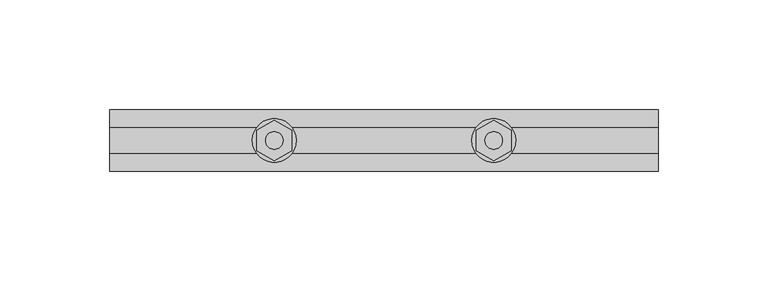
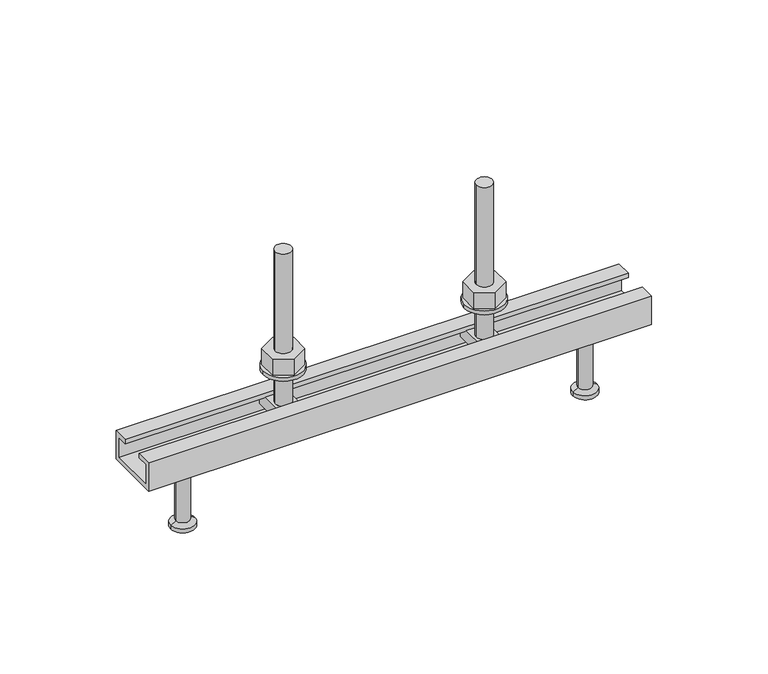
"""IFC4 building model written with IfcOpenShell, lengths in millimetres: fastener geometry, JTA-K JORDAHL® AnchorChannels : JTA-K L=250 mm."""

from ifc_helpers import new_model, si_unit, point, frame, frame_2d, origin, place, context, project, spatial, polyline, circle_curve, trimmed, segment, composite_curve, outline, extrude, source, transform, mapped, element, save
from ifc_brep_helpers import plane_surface, cylinder_surface, revolved_surface, advanced_brep


def fastener_d3574054(model_context):
    return source(origin(), model_context, "Body", "SolidModel", [
        extrude(outline(polyline([(175.0, 9.2376043), (183.0, 4.6188022), (183.0, -4.6188022), (175.0, -9.2376043), (167.0, -4.6188022), (167.0, 4.6188022), (175.0, 9.2376043)]), holes=[composite_curve([segment(trimmed(circle_curve(frame_2d((175.0, 0.0)), 4.0), [point((171.0, 0.0))], [point((179.0, 0.0))], True, "CARTESIAN"), True, "CONTINUOUS"), segment(trimmed(circle_curve(frame_2d((175.0, 0.0)), 4.0), [point((179.0, 0.0))], [point((171.0, 0.0))], True, "CARTESIAN"), True, "CONTINUOUS")], self_intersect=False)]), frame((0.0, 0.0, 17.0), z_axis=(0.0, 0.0, 1.0), x_axis=(1.0, 0.0, 0.0)), (0.0, 0.0, 1.0), 8.4),
        extrude(outline(composite_curve([segment(trimmed(circle_curve(frame_2d((175.0, 0.0)), 10.0), [point((165.0, 0.0))], [point((185.0, 0.0))], False, "CARTESIAN"), True, "CONTINUOUS"), segment(trimmed(circle_curve(frame_2d((175.0, 0.0)), 10.0), [point((185.0, 0.0))], [point((165.0, 0.0))], False, "CARTESIAN"), True, "CONTINUOUS")], self_intersect=False), holes=[composite_curve([segment(trimmed(circle_curve(frame_2d((175.0, 0.0)), 5.25), [point((169.75, 0.0))], [point((180.25, 0.0))], True, "CARTESIAN"), True, "CONTINUOUS"), segment(trimmed(circle_curve(frame_2d((175.0, 0.0)), 5.25), [point((180.25, 0.0))], [point((169.75, 0.0))], True, "CARTESIAN"), True, "CONTINUOUS")], self_intersect=False)]), frame((0.0, 0.0, 15.0), z_axis=(0.0, 0.0, 1.0), x_axis=(1.0, 0.0, 0.0)), (0.0, 0.0, 1.0), 2.0),
        extrude(outline(polyline([(75.0, 9.2376043), (83.0, 4.6188022), (83.0, -4.6188022), (75.0, -9.2376043), (67.0, -4.6188022), (67.0, 4.6188022), (75.0, 9.2376043)]), holes=[composite_curve([segment(trimmed(circle_curve(frame_2d((75.0, 0.0)), 4.0), [point((71.0, 0.0))], [point((79.0, 0.0))], True, "CARTESIAN"), True, "CONTINUOUS"), segment(trimmed(circle_curve(frame_2d((75.0, 0.0)), 4.0), [point((79.0, 0.0))], [point((71.0, 0.0))], True, "CARTESIAN"), True, "CONTINUOUS")], self_intersect=False)]), frame((0.0, 0.0, 17.0), z_axis=(0.0, 0.0, 1.0), x_axis=(1.0, 0.0, 0.0)), (0.0, 0.0, 1.0), 8.4),
        extrude(outline(composite_curve([segment(trimmed(circle_curve(frame_2d((75.0, 0.0)), 10.0), [point((65.0, 0.0))], [point((85.0, 0.0))], False, "CARTESIAN"), True, "CONTINUOUS"), segment(trimmed(circle_curve(frame_2d((75.0, 0.0)), 10.0), [point((85.0, 0.0))], [point((65.0, 0.0))], False, "CARTESIAN"), True, "CONTINUOUS")], self_intersect=False), holes=[composite_curve([segment(trimmed(circle_curve(frame_2d((75.0, 0.0)), 5.25), [point((69.75, 0.0))], [point((80.25, 0.0))], True, "CARTESIAN"), True, "CONTINUOUS"), segment(trimmed(circle_curve(frame_2d((75.0, 0.0)), 5.25), [point((80.25, 0.0))], [point((69.75, 0.0))], True, "CARTESIAN"), True, "CONTINUOUS")], self_intersect=False)]), frame((0.0, 0.0, 15.0), z_axis=(0.0, 0.0, 1.0), x_axis=(1.0, 0.0, 0.0)), (0.0, 0.0, 1.0), 2.0),
        advanced_brep(
        [(180.5, 11.0, -2.3), (180.5, -11.0, -2.3), (180.5, -11.0, -8.3), (180.5, 11.0, -8.3), (169.5, 11.0, -2.3), (169.5, 11.0, -8.3), (169.5, -11.0, -8.3), (169.5, -11.0, -2.3), (179.0, 0.0, -2.3), (171.0, 0.0, -2.3), (171.0, 0.0, 77.7), (179.0, 0.0, 77.7)],
        [
            (0, 1),
            (1, 2),
            (2, 3),
            (3, 0),
            (4, 5),
            (5, 6),
            (6, 7),
            (7, 4),
            (0, 4),
            (7, 1),
            (8, 9, circle_curve(frame((175.0, 0.0, -2.3), z_axis=(0.0, 0.0, -1.0), x_axis=(1.0, 0.0, 0.0)), 4.0)),
            (9, 8, circle_curve(frame((175.0, 0.0, -2.3), z_axis=(0.0, 0.0, -1.0), x_axis=(1.0, 0.0, 0.0)), 4.0)),
            (6, 2),
            (5, 3),
            (10, 11, circle_curve(frame((175.0, 0.0, 77.7), z_axis=(0.0, 0.0, 1.0), x_axis=(1.0, 0.0, 0.0)), 4.0)),
            (11, 10, circle_curve(frame((175.0, 0.0, 77.7), z_axis=(0.0, 0.0, 1.0), x_axis=(1.0, 0.0, 0.0)), 4.0)),
            (10, 9),
            (8, 11),
        ],
        [
            plane_surface(frame((180.5, -11.0, -2.3), z_axis=(1.0, 0.0, 0.0), x_axis=(0.0, -1.0, 0.0))),
            plane_surface(frame((169.5, -11.0, -2.3), z_axis=(-1.0, 0.0, 0.0), x_axis=(0.0, 1.0, 0.0))),
            plane_surface(frame((180.5, 11.0, -2.3), z_axis=(0.0, 0.0, 1.0), x_axis=(-1.0, 0.0, 0.0))),
            plane_surface(frame((180.5, -11.0, -2.3), z_axis=(0.0, -1.0, 0.0), x_axis=(-1.0, 0.0, 0.0))),
            plane_surface(frame((180.5, -11.0, -8.3), z_axis=(0.0, 0.0, -1.0), x_axis=(-1.0, 0.0, 0.0))),
            plane_surface(frame((180.5, 11.0, -8.3), z_axis=(0.0, 1.0, 0.0), x_axis=(-1.0, 0.0, 0.0))),
            plane_surface(frame((179.0, 0.0, 77.7), z_axis=(0.0, 0.0, 1.0), x_axis=(0.0, 1.0, 0.0))),
            cylinder_surface(frame((175.0, 0.0, -2.3), z_axis=(0.0, 0.0, 1.0), x_axis=(1.0, 0.0, 0.0)), 4.0),
        ],
        [
            (0, [[1, 2, 3, 4]]),
            (1, [[5, 6, 7, 8]]),
            (2, [[-1, 9, -8, 10], [11, 12]]),
            (3, [[-2, -10, -7, 13]]),
            (4, [[-3, -13, -6, 14]]),
            (5, [[-4, -14, -5, -9]]),
            (6, [[15, 16]]),
            (7, [[-15, 17, -11, 18]]),
            (7, [[-16, -18, -12, -17]]),
        ],
    ),
        advanced_brep(
        [(80.5, 11.0, -2.3), (80.5, -11.0, -2.3), (80.5, -11.0, -8.3), (80.5, 11.0, -8.3), (69.5, 11.0, -2.3), (69.5, 11.0, -8.3), (69.5, -11.0, -8.3), (69.5, -11.0, -2.3), (79.0, 0.0, -2.3), (71.0, 0.0, -2.3), (71.0, 0.0, 77.7), (79.0, 0.0, 77.7)],
        [
            (0, 1),
            (1, 2),
            (2, 3),
            (3, 0),
            (4, 5),
            (5, 6),
            (6, 7),
            (7, 4),
            (0, 4),
            (7, 1),
            (8, 9, circle_curve(frame((75.0, 0.0, -2.3), z_axis=(0.0, 0.0, -1.0), x_axis=(1.0, 0.0, 0.0)), 4.0)),
            (9, 8, circle_curve(frame((75.0, 0.0, -2.3), z_axis=(0.0, 0.0, -1.0), x_axis=(1.0, 0.0, 0.0)), 4.0)),
            (6, 2),
            (5, 3),
            (10, 11, circle_curve(frame((75.0, 0.0, 77.7), z_axis=(0.0, 0.0, 1.0), x_axis=(1.0, 0.0, 0.0)), 4.0)),
            (11, 10, circle_curve(frame((75.0, 0.0, 77.7), z_axis=(0.0, 0.0, 1.0), x_axis=(1.0, 0.0, 0.0)), 4.0)),
            (10, 9),
            (8, 11),
        ],
        [
            plane_surface(frame((80.5, -11.0, -2.3), z_axis=(1.0, 0.0, 0.0), x_axis=(0.0, -1.0, 0.0))),
            plane_surface(frame((69.5, -11.0, -2.3), z_axis=(-1.0, 0.0, 0.0), x_axis=(0.0, 1.0, 0.0))),
            plane_surface(frame((80.5, 11.0, -2.3), z_axis=(0.0, 0.0, 1.0), x_axis=(-1.0, 0.0, 0.0))),
            plane_surface(frame((80.5, -11.0, -2.3), z_axis=(0.0, -1.0, 0.0), x_axis=(-1.0, 0.0, 0.0))),
            plane_surface(frame((80.5, -11.0, -8.3), z_axis=(0.0, 0.0, -1.0), x_axis=(-1.0, 0.0, 0.0))),
            plane_surface(frame((80.5, 11.0, -8.3), z_axis=(0.0, 1.0, 0.0), x_axis=(-1.0, 0.0, 0.0))),
            plane_surface(frame((79.0, 0.0, 77.7), z_axis=(0.0, 0.0, 1.0), x_axis=(0.0, 1.0, 0.0))),
            cylinder_surface(frame((75.0, 0.0, -2.3), z_axis=(0.0, 0.0, 1.0), x_axis=(1.0, 0.0, 0.0)), 4.0),
        ],
        [
            (0, [[1, 2, 3, 4]]),
            (1, [[5, 6, 7, 8]]),
            (2, [[-1, 9, -8, 10], [11, 12]]),
            (3, [[-2, -10, -7, 13]]),
            (4, [[-3, -13, -6, 14]]),
            (5, [[-4, -14, -5, -9]]),
            (6, [[15, 16]]),
            (7, [[-15, 17, -11, 18]]),
            (7, [[-16, -18, -12, -17]]),
        ],
    ),
        advanced_brep(
        [(225.0, 0.0, -15.0), (235.5, 0.0, -15.0), (214.5, 0.0, -15.0), (219.0, 0.0, -50.0), (231.0, 0.0, -50.0), (225.0, 0.0, -50.0), (219.0, 0.0, -48.0), (231.0, 0.0, -48.0), (221.5, 0.0, -46.5566243), (228.5, 0.0, -46.5566243), (221.5, 0.0, -17.5), (228.5, 0.0, -17.5)],
        [
            (0, 1),
            (1, 2, circle_curve(frame((225.0, 0.0, -15.0), z_axis=(0.0, 0.0, 1.0), x_axis=(1.0, 0.0, 0.0)), 10.5)),
            (2, 0),
            (2, 1, circle_curve(frame((225.0, 0.0, -15.0), z_axis=(0.0, 0.0, 1.0), x_axis=(1.0, 0.0, 0.0)), 10.5)),
            (3, 4, circle_curve(frame((225.0, 0.0, -50.0), z_axis=(0.0, 0.0, -1.0), x_axis=(1.0, 0.0, 0.0)), 6.0)),
            (4, 5),
            (5, 3),
            (4, 3, circle_curve(frame((225.0, 0.0, -50.0), z_axis=(0.0, 0.0, -1.0), x_axis=(1.0, 0.0, 0.0)), 6.0)),
            (6, 7, circle_curve(frame((225.0, 0.0, -48.0), z_axis=(0.0, 0.0, -1.0), x_axis=(1.0, 0.0, 0.0)), 6.0)),
            (7, 4),
            (3, 6),
            (7, 6, circle_curve(frame((225.0, 0.0, -48.0), z_axis=(0.0, 0.0, -1.0), x_axis=(1.0, 0.0, 0.0)), 6.0)),
            (8, 9, circle_curve(frame((225.0, 0.0, -46.5566243), z_axis=(0.0, 0.0, -1.0), x_axis=(1.0, 0.0, 0.0)), 3.5)),
            (9, 7),
            (6, 8),
            (9, 8, circle_curve(frame((225.0, 0.0, -46.5566243), z_axis=(0.0, 0.0, -1.0), x_axis=(1.0, 0.0, 0.0)), 3.5)),
            (10, 11, circle_curve(frame((225.0, 0.0, -17.5), z_axis=(0.0, 0.0, -1.0), x_axis=(1.0, 0.0, 0.0)), 3.5)),
            (11, 9),
            (8, 10),
            (11, 10, circle_curve(frame((225.0, 0.0, -17.5), z_axis=(0.0, 0.0, -1.0), x_axis=(1.0, 0.0, 0.0)), 3.5)),
            (1, 11),
            (10, 2),
        ],
        [
            plane_surface(frame((225.0, 0.0, -15.0), z_axis=(0.0, 0.0, 1.0), x_axis=(1.0, 0.0, 0.0))),
            plane_surface(frame((225.0, 0.0, -50.0), z_axis=(0.0, 0.0, -1.0), x_axis=(1.0, 0.0, 0.0))),
            cylinder_surface(frame((225.0, 0.0, 2249.3150031), z_axis=(0.0, 0.0, 1.0), x_axis=(1.0, 0.0, 0.0)), 6.0),
            revolved_surface(polyline([(231.0, 0.0, -48.0), (228.5, 0.0, -46.5566243)]), (225.0, 0.0, 2249.3150031), (0.0, 0.0, 1.0)),
            cylinder_surface(frame((225.0, 0.0, 2249.3150031), z_axis=(0.0, 0.0, 1.0), x_axis=(1.0, 0.0, 0.0)), 3.5),
            revolved_surface(polyline([(228.5, 0.0, -17.5), (235.5, 0.0, -15.0)]), (225.0, 0.0, 2249.3150031), (0.0, 0.0, 1.0)),
        ],
        [
            (0, [[1, 2, 3]]),
            (0, [[-3, 4, -1]]),
            (1, [[5, 6, 7]]),
            (1, [[8, -7, -6]]),
            (2, [[9, 10, -5, 11]]),
            (2, [[12, -11, -8, -10]]),
            (3, [[13, 14, -9, 15]]),
            (3, [[16, -15, -12, -14]]),
            (4, [[17, 18, -13, 19]]),
            (4, [[20, -19, -16, -18]]),
            (5, [[-2, 21, -17, 22]]),
            (5, [[-4, -22, -20, -21]]),
        ],
    ),
        advanced_brep(
        [(25.0, 0.0, -15.0), (35.5, 0.0, -15.0), (14.5, 0.0, -15.0), (19.0, 0.0, -50.0), (31.0, 0.0, -50.0), (25.0, 0.0, -50.0), (19.0, 0.0, -48.0), (31.0, 0.0, -48.0), (21.5, 0.0, -46.5566243), (28.5, 0.0, -46.5566243), (21.5, 0.0, -17.5), (28.5, 0.0, -17.5)],
        [
            (0, 1),
            (1, 2, circle_curve(frame((25.0, 0.0, -15.0), z_axis=(0.0, 0.0, 1.0), x_axis=(1.0, 0.0, 0.0)), 10.5)),
            (2, 0),
            (2, 1, circle_curve(frame((25.0, 0.0, -15.0), z_axis=(0.0, 0.0, 1.0), x_axis=(1.0, 0.0, 0.0)), 10.5)),
            (3, 4, circle_curve(frame((25.0, 0.0, -50.0), z_axis=(0.0, 0.0, -1.0), x_axis=(1.0, 0.0, 0.0)), 6.0)),
            (4, 5),
            (5, 3),
            (4, 3, circle_curve(frame((25.0, 0.0, -50.0), z_axis=(0.0, 0.0, -1.0), x_axis=(1.0, 0.0, 0.0)), 6.0)),
            (6, 7, circle_curve(frame((25.0, 0.0, -48.0), z_axis=(0.0, 0.0, -1.0), x_axis=(1.0, 0.0, 0.0)), 6.0)),
            (7, 4),
            (3, 6),
            (7, 6, circle_curve(frame((25.0, 0.0, -48.0), z_axis=(0.0, 0.0, -1.0), x_axis=(1.0, 0.0, 0.0)), 6.0)),
            (8, 9, circle_curve(frame((25.0, 0.0, -46.5566243), z_axis=(0.0, 0.0, -1.0), x_axis=(1.0, 0.0, 0.0)), 3.5)),
            (9, 7),
            (6, 8),
            (9, 8, circle_curve(frame((25.0, 0.0, -46.5566243), z_axis=(0.0, 0.0, -1.0), x_axis=(1.0, 0.0, 0.0)), 3.5)),
            (10, 11, circle_curve(frame((25.0, 0.0, -17.5), z_axis=(0.0, 0.0, -1.0), x_axis=(1.0, 0.0, 0.0)), 3.5)),
            (11, 9),
            (8, 10),
            (11, 10, circle_curve(frame((25.0, 0.0, -17.5), z_axis=(0.0, 0.0, -1.0), x_axis=(1.0, 0.0, 0.0)), 3.5)),
            (1, 11),
            (10, 2),
        ],
        [
            plane_surface(frame((25.0, 0.0, -15.0), z_axis=(0.0, 0.0, 1.0), x_axis=(1.0, 0.0, 0.0))),
            plane_surface(frame((25.0, 0.0, -50.0), z_axis=(0.0, 0.0, -1.0), x_axis=(1.0, 0.0, 0.0))),
            cylinder_surface(frame((25.0, 0.0, 2249.3150031), z_axis=(0.0, 0.0, 1.0), x_axis=(1.0, 0.0, 0.0)), 6.0),
            revolved_surface(polyline([(31.0, 0.0, -48.0), (28.5, 0.0, -46.5566243)]), (25.0, 0.0, 2249.3150031), (0.0, 0.0, 1.0)),
            cylinder_surface(frame((25.0, 0.0, 2249.3150031), z_axis=(0.0, 0.0, 1.0), x_axis=(1.0, 0.0, 0.0)), 3.5),
            revolved_surface(polyline([(28.5, 0.0, -17.5), (35.5, 0.0, -15.0)]), (25.0, 0.0, 2249.3150031), (0.0, 0.0, 1.0)),
        ],
        [
            (0, [[1, 2, 3]]),
            (0, [[-3, 4, -1]]),
            (1, [[5, 6, 7]]),
            (1, [[8, -7, -6]]),
            (2, [[9, 10, -5, 11]]),
            (2, [[12, -11, -8, -10]]),
            (3, [[13, 14, -9, 15]]),
            (3, [[16, -15, -12, -14]]),
            (4, [[17, 18, -13, 19]]),
            (4, [[20, -19, -16, -18]]),
            (5, [[-2, 21, -17, 22]]),
            (5, [[-4, -22, -20, -21]]),
        ],
    ),
        extrude(outline(polyline([(14.0, 0.0), (14.0, -15.0), (-14.0, -15.0), (-14.0, 0.0), (-6.0, 0.0), (-6.0, -2.3), (-11.7, -2.3), (-11.7, -12.7), (11.7, -12.7), (11.7, -2.3), (6.0, -2.3), (6.0, 0.0), (14.0, 0.0)])), frame((0.0, 0.0, 0.0), z_axis=(1.0, 0.0, 0.0), x_axis=(0.0, 1.0, 0.0)), (0.0, 0.0, 1.0), 250.0),
    ])


if __name__ == "__main__":
    model = new_model("IFC4")
    model_context = context("Model", 3, world=origin())
    ifc_project = project(units=[si_unit("LENGTHUNIT", "METRE", prefix="MILLI")], contexts=[model_context])
    site = spatial("IfcSite", under=ifc_project)
    building = spatial("IfcBuilding", under=site)
    placement = place(None, origin())
    fastener_shape = fastener_d3574054(model_context)
    element("IfcFastener", 1, ObjectType="JTA-K JORDAHL® AnchorChannels : JTA-K L=250 mm", at=placement, inside=building, context=model_context, shape_type="MappedRepresentation", body=[
        mapped(fastener_shape, transform((0.0, 0.0, 0.0), x_axis=(1.0, 0.0, 0.0), y_axis=(0.0, 1.0, 0.0), z_axis=(0.0, 0.0, 1.0))),
    ])
    save(model, "model.ifc")
